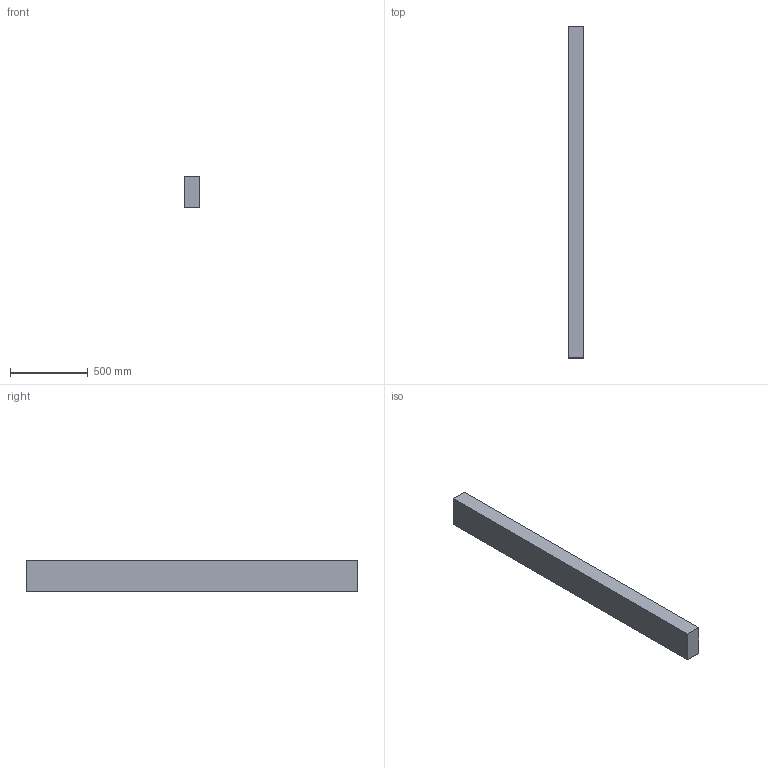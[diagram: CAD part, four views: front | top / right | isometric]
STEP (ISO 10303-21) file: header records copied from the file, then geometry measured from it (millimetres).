
FILE_DESCRIPTION(/* description */ (''),/* implementation_level */ '2;1');
FILE_NAME(/* name */ '4x8x84',/* time_stamp */ '2024-09-20T11:45:46-05:00',/* author */ (''),/* organization */ (''),/* preprocessor_version */ 'ST-DEVELOPER v19.2',/* originating_system */ 'Rhino 8.5',/* authorisation */ '');
FILE_SCHEMA (('CONFIG_CONTROL_DESIGN'));
Length unit declared in the file: inch
Products named in the file (1): Document
Bounding box: 101.6 x 2133.6 x 203.2 mm (x, y, z)
Volume: 44048428 mm3; surface area: 1341932.8 mm2
Topology: 1 solids, 1 shells, 6 faces, 12 edges, 8 vertices
Faces by surface type: plane 6
Entity records: 226 total; most frequent: CARTESIAN_POINT 40, ORIENTED_EDGE 24, EDGE_CURVE 12, B_SPLINE_CURVE_WITH_KNOTS 12, DIRECTION 10, VERTEX_POINT 8, AXIS2_PLACEMENT_3D 8, ORGANIZATION 7
